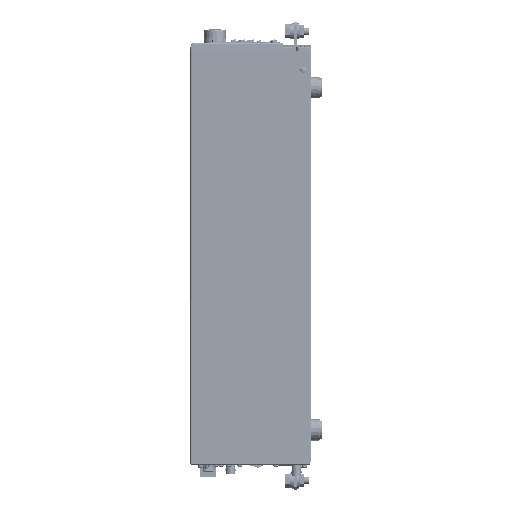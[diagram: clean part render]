
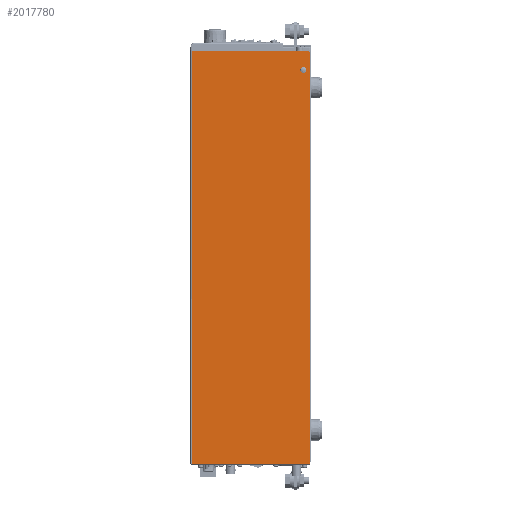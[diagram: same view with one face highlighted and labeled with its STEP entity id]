
A CAD part, left-side view. The second image highlights one B-rep face of the part: STEP entity #2017780.
In plain terms, the highlighted planar face has unit normal (-1, 0, 0).
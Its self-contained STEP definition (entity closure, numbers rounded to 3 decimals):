
#920080=CARTESIAN_POINT('',(-215.,127.1,-428.5));
#920090=VERTEX_POINT('',#920080);
#920120=CARTESIAN_POINT('',(-215.,0.,-428.5));
#920130=DIRECTION('',(0.,1.,0.));
#920140=VECTOR('',#920130,1.);
#920150=LINE('',#920120,#920140);
#920160=CARTESIAN_POINT('',(-215.,0.5,-428.5));
#920170=VERTEX_POINT('',#920160);
#920180=EDGE_CURVE('',#920170,#920090,#920150,.T.);
#2012980=CARTESIAN_POINT('',(-215.,2.5,11.));
#2012990=VERTEX_POINT('',#2012980);
#2013020=CARTESIAN_POINT('',(-215.,0.,11.));
#2013030=DIRECTION('',(0.,-1.,-0.));
#2013040=VECTOR('',#2013030,1.);
#2013050=LINE('',#2013020,#2013040);
#2013060=CARTESIAN_POINT('',(-215.,127.1,11.));
#2013070=VERTEX_POINT('',#2013060);
#2013080=EDGE_CURVE('',#2013070,#2012990,#2013050,.T.);
#2016010=CARTESIAN_POINT('',(-215.,0.5,-400.));
#2016020=DIRECTION('',(0.,0.,-1.));
#2016030=VECTOR('',#2016020,1.);
#2016040=LINE('',#2016010,#2016030);
#2016050=CARTESIAN_POINT('',(-215.,0.5,9.));
#2016060=VERTEX_POINT('',#2016050);
#2016070=EDGE_CURVE('',#2016060,#920170,#2016040,.T.);
#2017270=CARTESIAN_POINT('',(-215.,8.1,-7.));
#2017280=VERTEX_POINT('',#2017270);
#2017310=CARTESIAN_POINT('',(-215.,8.1,-9.));
#2017320=DIRECTION('',(-1.,0.,0.));
#2017330=DIRECTION('',(0.,0.,1.));
#2017340=AXIS2_PLACEMENT_3D('',#2017310,#2017320,#2017330);
#2017350=CIRCLE('',#2017340,2.);
#2017360=CARTESIAN_POINT('',(-215.,8.1,-11.));
#2017370=VERTEX_POINT('',#2017360);
#2017380=EDGE_CURVE('',#2017370,#2017280,#2017350,.T.);
#2017500=CARTESIAN_POINT('',(-215.,0.,0.));
#2017510=DIRECTION('',(-1.,0.,0.));
#2017520=DIRECTION('',(0.,1.,0.));
#2017530=AXIS2_PLACEMENT_3D('',#2017500,#2017510,#2017520);
#2017540=PLANE('',#2017530);
#2017550=EDGE_CURVE('',#2017280,#2017370,#2017350,.T.);
#2017560=ORIENTED_EDGE('',*,*,#2017550,.F.);
#2017570=ORIENTED_EDGE('',*,*,#2017380,.F.);
#2017580=EDGE_LOOP('',(#2017570,#2017560));
#2017590=FACE_BOUND('',#2017580,.T.);
#2017600=CARTESIAN_POINT('',(-215.,127.1,-400.));
#2017610=DIRECTION('',(0.,0.,1.));
#2017620=VECTOR('',#2017610,1.);
#2017630=LINE('',#2017600,#2017620);
#2017640=EDGE_CURVE('',#920090,#2013070,#2017630,.T.);
#2017650=ORIENTED_EDGE('',*,*,#2017640,.F.);
#2017660=ORIENTED_EDGE('',*,*,#2013080,.F.);
#2017670=CARTESIAN_POINT('',(-215.,2.5,9.));
#2017680=DIRECTION('',(1.,0.,0.));
#2017690=DIRECTION('',(0.,0.,-1.));
#2017700=AXIS2_PLACEMENT_3D('',#2017670,#2017680,#2017690);
#2017710=CIRCLE('',#2017700,2.);
#2017720=EDGE_CURVE('',#2012990,#2016060,#2017710,.T.);
#2017730=ORIENTED_EDGE('',*,*,#2017720,.F.);
#2017740=ORIENTED_EDGE('',*,*,#2016070,.F.);
#2017750=ORIENTED_EDGE('',*,*,#920180,.F.);
#2017760=EDGE_LOOP('',(#2017750,#2017740,#2017730,#2017660,#2017650));
#2017770=FACE_OUTER_BOUND('',#2017760,.T.);
#2017780=ADVANCED_FACE('',(#2017590,#2017770),#2017540,.T.);
